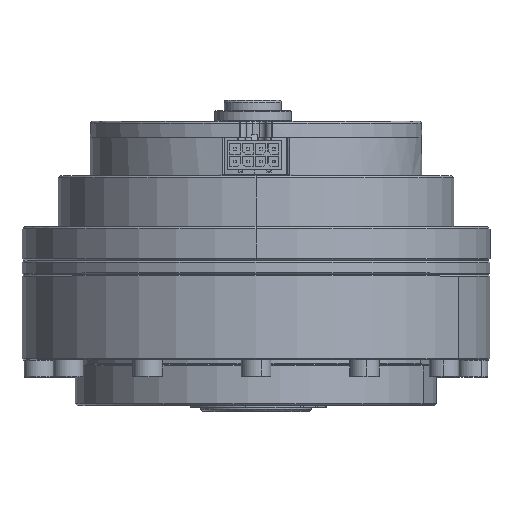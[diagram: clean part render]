
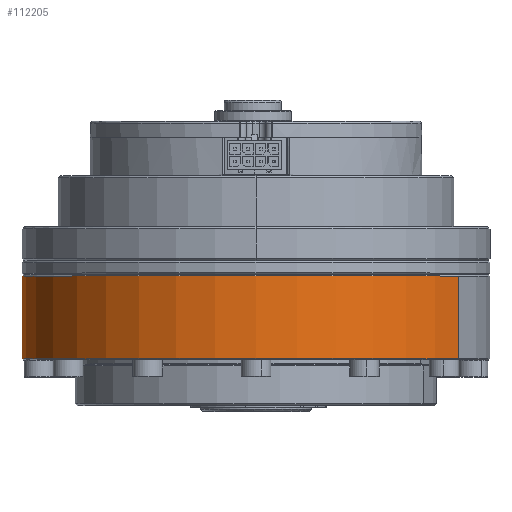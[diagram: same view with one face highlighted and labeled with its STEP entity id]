
A CAD part, top view. The second image highlights one B-rep face of the part: STEP entity #112205.
In plain terms, the highlighted cylindrical face has radius 55 mm (diameter 110 mm), a partial arc.
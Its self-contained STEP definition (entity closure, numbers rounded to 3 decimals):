
#1883 = CARTESIAN_POINT ( 'NONE',  ( -47.631, -19.9, -27.5 ) ) ;
#2570 = VERTEX_POINT ( 'NONE', #28133 ) ;
#4813 = AXIS2_PLACEMENT_3D ( 'NONE', #4853, #38380, #114548 ) ;
#4853 = CARTESIAN_POINT ( 'NONE',  ( 0., -19.9, 0. ) ) ;
#11851 = FACE_OUTER_BOUND ( 'NONE', #120183, .T. ) ;
#15055 = ORIENTED_EDGE ( 'NONE', *, *, #134103, .T. ) ;
#21704 = LINE ( 'NONE', #141389, #99780 ) ;
#22562 = DIRECTION ( 'NONE',  ( 0., 0., -1. ) ) ;
#23509 = ORIENTED_EDGE ( 'NONE', *, *, #95512, .T. ) ;
#28133 = CARTESIAN_POINT ( 'NONE',  ( 47.631, -19.9, 27.5 ) ) ;
#38380 = DIRECTION ( 'NONE',  ( 0., 1., 0. ) ) ;
#44840 = CYLINDRICAL_SURFACE ( 'NONE', #76914, 55. ) ;
#46905 = CIRCLE ( 'NONE', #4813, 55. ) ;
#49017 = EDGE_CURVE ( 'NONE', #81540, #104018, #78773, .T. ) ;
#62879 = DIRECTION ( 'NONE',  ( 0., 1., 0. ) ) ;
#68336 = VECTOR ( 'NONE', #90960, 1000. ) ;
#68748 = ORIENTED_EDGE ( 'NONE', *, *, #49017, .F. ) ;
#69098 = CIRCLE ( 'NONE', #127508, 55. ) ;
#76914 = AXIS2_PLACEMENT_3D ( 'NONE', #109150, #110118, #99395 ) ;
#78773 = LINE ( 'NONE', #112392, #68336 ) ;
#80007 = VERTEX_POINT ( 'NONE', #129063 ) ;
#81540 = VERTEX_POINT ( 'NONE', #1883 ) ;
#85768 = CARTESIAN_POINT ( 'NONE',  ( -47.631, -0.5, -27.5 ) ) ;
#90960 = DIRECTION ( 'NONE',  ( 0., 1., 0. ) ) ;
#95512 = EDGE_CURVE ( 'NONE', #2570, #80007, #21704, .T. ) ;
#99395 = DIRECTION ( 'NONE',  ( -0.866, 0., -0.5 ) ) ;
#99780 = VECTOR ( 'NONE', #62879, 1000. ) ;
#103776 = EDGE_CURVE ( 'NONE', #81540, #2570, #46905, .T. ) ;
#104018 = VERTEX_POINT ( 'NONE', #85768 ) ;
#109150 = CARTESIAN_POINT ( 'NONE',  ( 0., -0.2, 0. ) ) ;
#110118 = DIRECTION ( 'NONE',  ( 0., 1., 0. ) ) ;
#111336 = CARTESIAN_POINT ( 'NONE',  ( 0., -0.5, 0. ) ) ;
#112205 = ADVANCED_FACE ( 'NONE', ( #11851 ), #44840, .T. ) ;
#112392 = CARTESIAN_POINT ( 'NONE',  ( -47.631, -0.2, -27.5 ) ) ;
#114548 = DIRECTION ( 'NONE',  ( 0., 0., 1. ) ) ;
#120183 = EDGE_LOOP ( 'NONE', ( #130500, #23509, #15055, #68748 ) ) ;
#127508 = AXIS2_PLACEMENT_3D ( 'NONE', #111336, #132606, #22562 ) ;
#129063 = CARTESIAN_POINT ( 'NONE',  ( 47.631, -0.5, 27.5 ) ) ;
#130500 = ORIENTED_EDGE ( 'NONE', *, *, #103776, .T. ) ;
#132606 = DIRECTION ( 'NONE',  ( 0., -1., 0. ) ) ;
#134103 = EDGE_CURVE ( 'NONE', #80007, #104018, #69098, .T. ) ;
#141389 = CARTESIAN_POINT ( 'NONE',  ( 47.631, -0.2, 27.5 ) ) ;
